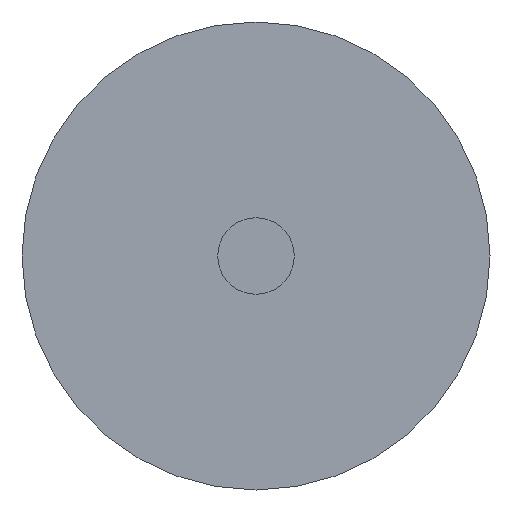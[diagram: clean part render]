
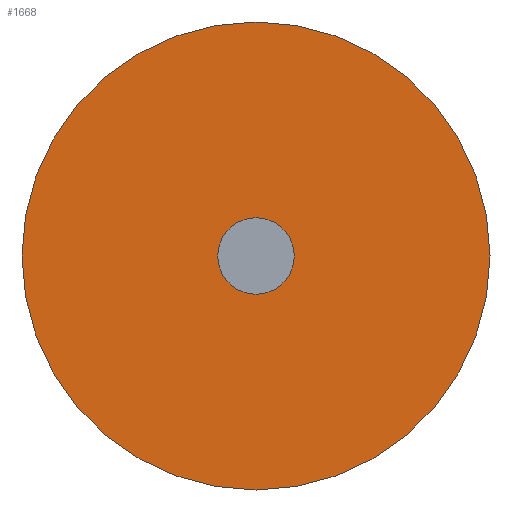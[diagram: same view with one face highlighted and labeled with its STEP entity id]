
A CAD part, front view. The second image highlights one B-rep face of the part: STEP entity #1668.
In plain terms, the highlighted planar face has unit normal (0, -1, 0).
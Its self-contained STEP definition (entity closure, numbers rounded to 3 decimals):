
#47 = DIRECTION ( 'NONE',  ( 0., 1., 0. ) ) ;
#108 = VERTEX_POINT ( 'NONE', #1586 ) ;
#136 = ORIENTED_EDGE ( 'NONE', *, *, #1570, .T. ) ;
#155 = DIRECTION ( 'NONE',  ( 0., 0., 1. ) ) ;
#185 = VERTEX_POINT ( 'NONE', #1137 ) ;
#198 = VERTEX_POINT ( 'NONE', #1944 ) ;
#200 = DIRECTION ( 'NONE',  ( 0., 1., 0. ) ) ;
#356 = DIRECTION ( 'NONE',  ( 0., 1., 0. ) ) ;
#374 = CARTESIAN_POINT ( 'NONE',  ( 0., -3., 0. ) ) ;
#440 = CARTESIAN_POINT ( 'NONE',  ( 0., -3., -49. ) ) ;
#471 = AXIS2_PLACEMENT_3D ( 'NONE', #656, #2144, #887 ) ;
#544 = DIRECTION ( 'NONE',  ( 0., 0., 1. ) ) ;
#573 = EDGE_CURVE ( 'NONE', #1967, #185, #935, .T. ) ;
#608 = CIRCLE ( 'NONE', #1675, 49. ) ;
#656 = CARTESIAN_POINT ( 'NONE',  ( 0., -3., 0. ) ) ;
#659 = ORIENTED_EDGE ( 'NONE', *, *, #573, .F. ) ;
#701 = PLANE ( 'NONE',  #1618 ) ;
#887 = DIRECTION ( 'NONE',  ( 0., 0., 1. ) ) ;
#935 = CIRCLE ( 'NONE', #2041, 49. ) ;
#1008 = CARTESIAN_POINT ( 'NONE',  ( 0., -3., 0. ) ) ;
#1022 = EDGE_CURVE ( 'NONE', #185, #1967, #608, .T. ) ;
#1050 = CARTESIAN_POINT ( 'NONE',  ( 0., -3., 0. ) ) ;
#1121 = EDGE_LOOP ( 'NONE', ( #1277, #136 ) ) ;
#1137 = CARTESIAN_POINT ( 'NONE',  ( 0., -3., 49. ) ) ;
#1194 = DIRECTION ( 'NONE',  ( 0., 0., 1. ) ) ;
#1254 = AXIS2_PLACEMENT_3D ( 'NONE', #374, #47, #544 ) ;
#1261 = CIRCLE ( 'NONE', #471, 8. ) ;
#1277 = ORIENTED_EDGE ( 'NONE', *, *, #1542, .T. ) ;
#1484 = FACE_BOUND ( 'NONE', #1121, .T. ) ;
#1507 = FACE_OUTER_BOUND ( 'NONE', #1961, .T. ) ;
#1542 = EDGE_CURVE ( 'NONE', #108, #198, #1261, .T. ) ;
#1570 = EDGE_CURVE ( 'NONE', #198, #108, #2109, .T. ) ;
#1586 = CARTESIAN_POINT ( 'NONE',  ( 0., -3., 8. ) ) ;
#1617 = CARTESIAN_POINT ( 'NONE',  ( 0., -3., 0. ) ) ;
#1618 = AXIS2_PLACEMENT_3D ( 'NONE', #1050, #200, #1194 ) ;
#1668 = ADVANCED_FACE ( 'NONE', ( #1484, #1507 ), #701, .F. ) ;
#1675 = AXIS2_PLACEMENT_3D ( 'NONE', #1008, #356, #1827 ) ;
#1689 = ORIENTED_EDGE ( 'NONE', *, *, #1022, .F. ) ;
#1827 = DIRECTION ( 'NONE',  ( 0., 0., 1. ) ) ;
#1944 = CARTESIAN_POINT ( 'NONE',  ( 0., -3., -8. ) ) ;
#1961 = EDGE_LOOP ( 'NONE', ( #1689, #659 ) ) ;
#1967 = VERTEX_POINT ( 'NONE', #440 ) ;
#2041 = AXIS2_PLACEMENT_3D ( 'NONE', #1617, #2145, #155 ) ;
#2109 = CIRCLE ( 'NONE', #1254, 8. ) ;
#2144 = DIRECTION ( 'NONE',  ( 0., 1., 0. ) ) ;
#2145 = DIRECTION ( 'NONE',  ( 0., 1., 0. ) ) ;
